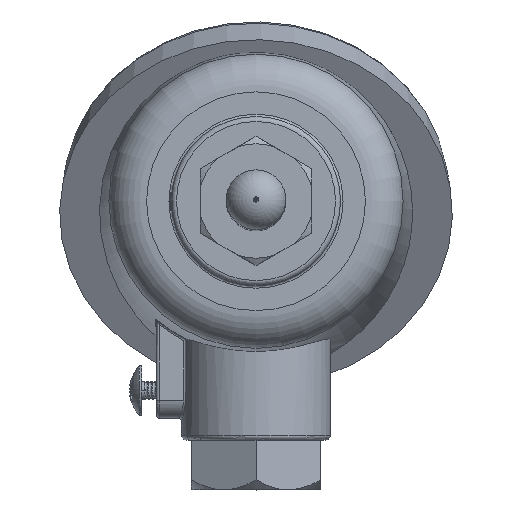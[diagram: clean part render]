
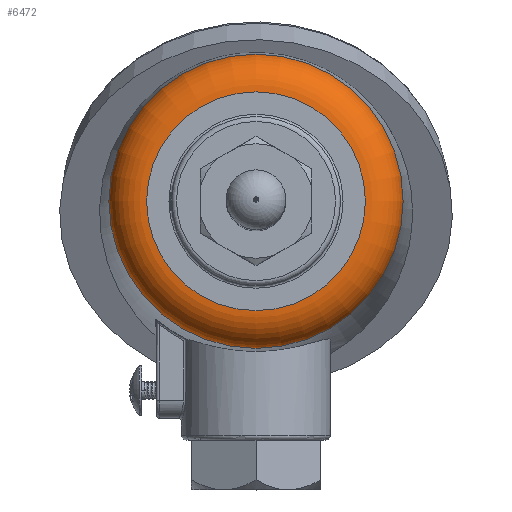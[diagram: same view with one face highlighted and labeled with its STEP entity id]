
A CAD part, top view. The second image highlights one B-rep face of the part: STEP entity #6472.
In plain terms, the highlighted toroidal (fillet/blend) face has major radius 22 mm and minor radius 7.622 mm.
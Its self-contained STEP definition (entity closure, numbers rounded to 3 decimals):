
#41 = TOROIDAL_SURFACE ( 'NONE', #6264, 22., 7.622 ) ;
#599 = CARTESIAN_POINT ( 'NONE',  ( 0., 0., -33.222 ) ) ;
#717 = CARTESIAN_POINT ( 'NONE',  ( 0., -22., -25.6 ) ) ;
#1390 = AXIS2_PLACEMENT_3D ( 'NONE', #6390, #3019, #3861 ) ;
#1873 = FACE_OUTER_BOUND ( 'NONE', #7941, .T. ) ;
#2031 = EDGE_CURVE ( 'NONE', #5238, #5238, #6543, .T. ) ;
#3019 = DIRECTION ( 'NONE',  ( 0., 0., 1. ) ) ;
#3181 = DIRECTION ( 'NONE',  ( 0., 0., 1. ) ) ;
#3205 = DIRECTION ( 'NONE',  ( 0., -1., 0. ) ) ;
#3585 = ORIENTED_EDGE ( 'NONE', *, *, #2031, .F. ) ;
#3590 = AXIS2_PLACEMENT_3D ( 'NONE', #3844, #6333, #3205 ) ;
#3844 = CARTESIAN_POINT ( 'NONE',  ( 0., 0., -25.6 ) ) ;
#3861 = DIRECTION ( 'NONE',  ( 0., -1., 0. ) ) ;
#5050 = CIRCLE ( 'NONE', #1390, 29.597 ) ;
#5238 = VERTEX_POINT ( 'NONE', #717 ) ;
#5756 = DIRECTION ( 'NONE',  ( 0., -1., 0. ) ) ;
#6002 = CARTESIAN_POINT ( 'NONE',  ( 0., -29.597, -32.6 ) ) ;
#6264 = AXIS2_PLACEMENT_3D ( 'NONE', #599, #3181, #5756 ) ;
#6333 = DIRECTION ( 'NONE',  ( 0., 0., 1. ) ) ;
#6390 = CARTESIAN_POINT ( 'NONE',  ( 0., 0., -32.6 ) ) ;
#6472 = ADVANCED_FACE ( 'NONE', ( #1873, #7023 ), #41, .T. ) ;
#6493 = EDGE_CURVE ( 'NONE', #8120, #8120, #5050, .T. ) ;
#6543 = CIRCLE ( 'NONE', #3590, 22. ) ;
#6768 = ORIENTED_EDGE ( 'NONE', *, *, #6493, .T. ) ;
#7023 = FACE_OUTER_BOUND ( 'NONE', #7823, .T. ) ;
#7823 = EDGE_LOOP ( 'NONE', ( #3585 ) ) ;
#7941 = EDGE_LOOP ( 'NONE', ( #6768 ) ) ;
#8120 = VERTEX_POINT ( 'NONE', #6002 ) ;
